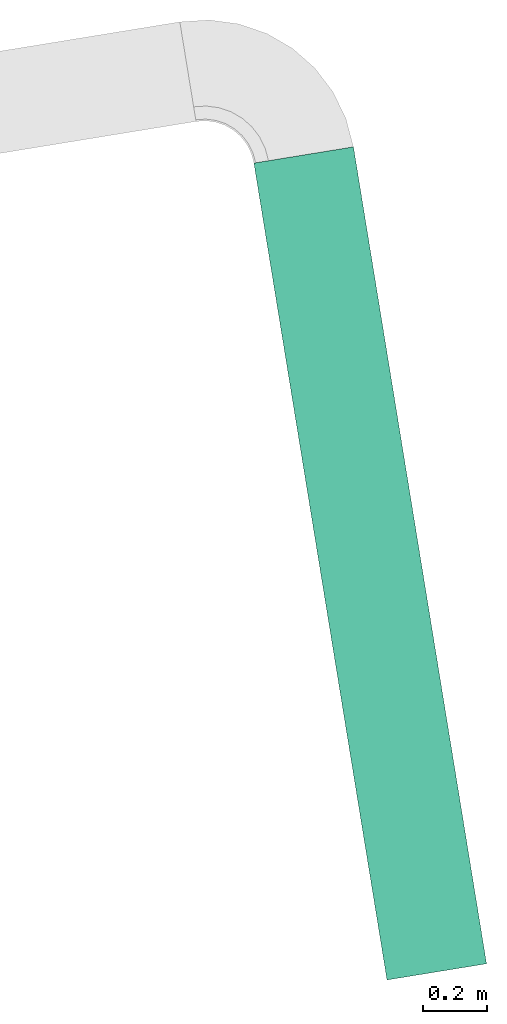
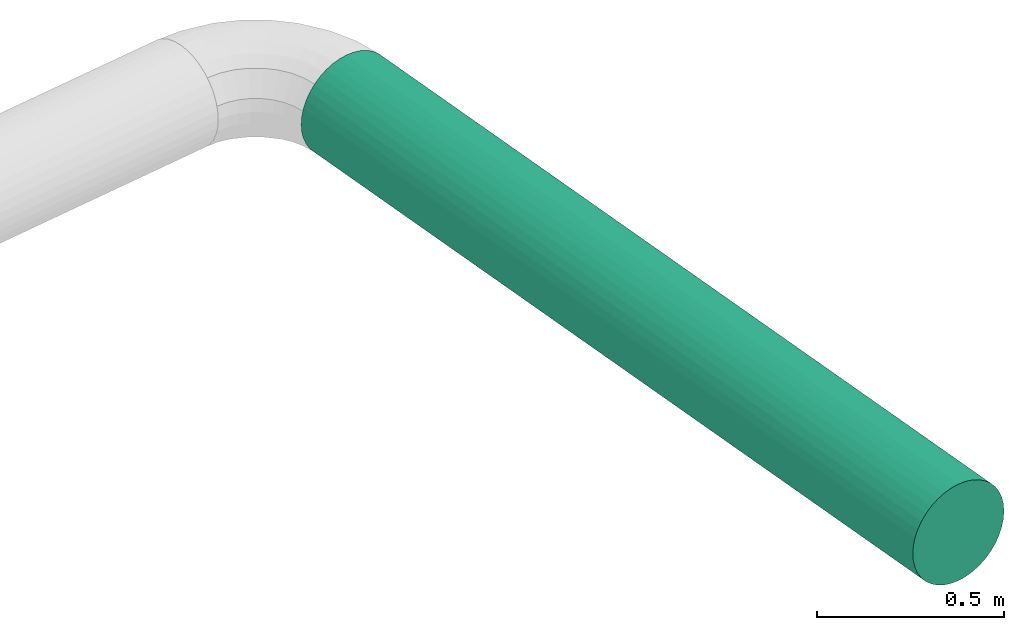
# One storey, part 1 of 2: 1 flow segment.
"""IFC2X3 building model written with IfcOpenShell, lengths in millimetres."""

import ifcopenshell
import ifcopenshell.guid

model = None  # the IFC model being written
_history = None  # IfcOwnerHistory: only IFC2X3 demands one
_inside = {}  # id of a spatial element -> (the spatial element, [elements in it])
_under = {}  # id of a project, library or spatial element -> (it, [spatial elements below it])
_declared = {}  # id of a project -> (the project, [libraries it declares])
_typed = {}  # id of a type object -> (the type object, [elements of that type])
_made_of = {}  # id of a material, layer set ... -> (it, [elements and type objects made of it])


def new_model(schema):
    """Start an empty IFC model of exactly this schema.

    Asked for "IFC4X3", IfcOpenShell would pick the latest addendum, in which some entities
    have other attributes; the version numbers below select the first issue.
    IFC2X3 requires an IfcOwnerHistory on every rooted entity: one is made here for all.
    """
    global model, _history
    if schema == "IFC4X3":
        model = ifcopenshell.file(schema_version=(4, 3, 0, 0))
    else:
        model = ifcopenshell.file(schema=schema)
    _inside.clear()
    _under.clear()
    _declared.clear()
    _typed.clear()
    _made_of.clear()
    _history = None
    if model.schema == "IFC2X3":
        org = make("IfcOrganization", Name="unknown")
        user = make(
            "IfcPersonAndOrganization",
            ThePerson=make("IfcPerson", FamilyName="unknown"),
            TheOrganization=org,
        )
        app = make(
            "IfcApplication",
            ApplicationDeveloper=org,
            Version="unknown",
            ApplicationFullName="unknown",
            ApplicationIdentifier="unknown",
        )
        _history = make(
            "IfcOwnerHistory",
            OwningUser=user,
            OwningApplication=app,
            ChangeAction="ADDED",
            CreationDate=0,
        )
    return model


def make(cls, **values):
    """One entity of the class cls with the attributes given. An attribute that is None is left unset."""
    return model.create_entity(
        cls, **{name: value for name, value in values.items() if value is not None}
    )


def entity(cls, *values):
    """Any entity or typed value of the class cls, its attributes in the order of the schema. None: left unset."""
    e = model.create_entity(cls)
    for i, value in enumerate(values):
        if value is not None:
            e[i] = value
    return e


def rooted(cls, **values):
    """An entity with a GlobalId (a new one), such as an element, a storey or a relation."""
    return make(cls, GlobalId=ifcopenshell.guid.new(), OwnerHistory=_history, **values)


def si_unit(unit_type, name, prefix=None):
    """IfcSIUnit, for example si_unit("LENGTHUNIT", "METRE", prefix="MILLI")."""
    return make("IfcSIUnit", UnitType=unit_type, Prefix=prefix, Name=name)


def converted_unit(unit_type, name, factor, base, dimensions=None, offset=None):
    """IfcConversionBasedUnit, such as the inch: factor (a typed value) times the base unit."""
    return make(
        "IfcConversionBasedUnit"
        if offset is None
        else "IfcConversionBasedUnitWithOffset",
        ConversionOffset=offset,
        Dimensions=None
        if dimensions is None
        else entity("IfcDimensionalExponents", *dimensions),
        UnitType=unit_type,
        Name=name,
        ConversionFactor=make(
            "IfcMeasureWithUnit", ValueComponent=factor, UnitComponent=base
        ),
    )


def derived_unit(unit_type, elements):
    """IfcDerivedUnit: a product of units, each with its exponent."""
    return make(
        "IfcDerivedUnit",
        Elements=[
            make("IfcDerivedUnitElement", Unit=unit, Exponent=power)
            for unit, power in elements
        ],
        UnitType=unit_type,
    )


def assignment(units):
    """IfcUnitAssignment: the units of a project."""
    return None if units is None else make("IfcUnitAssignment", Units=units)


def point(xyz):
    """IfcCartesianPoint."""
    return None if xyz is None else make("IfcCartesianPoint", Coordinates=xyz)


def direction(xyz):
    """IfcDirection."""
    return None if xyz is None else make("IfcDirection", DirectionRatios=xyz)


def frame(location, z_axis=None, x_axis=None):
    """IfcAxis2Placement3D, a coordinate frame: its origin and axes. An axis left out is left unset."""
    return make(
        "IfcAxis2Placement3D",
        Location=point(location),
        Axis=direction(z_axis),
        RefDirection=direction(x_axis),
    )


def frame_2d(location, x_axis=None):
    """IfcAxis2Placement2D, a coordinate frame in the plane: its origin and x axis."""
    return make(
        "IfcAxis2Placement2D", Location=point(location), RefDirection=direction(x_axis)
    )


def origin():
    """The frame at (0, 0, 0) with its axes left unset."""
    return frame((0.0, 0.0, 0.0))


def origin_with_axes():
    """The frame at (0, 0, 0) with the z axis (0, 0, 1) and the x axis (1, 0, 0) written out."""
    return frame((0.0, 0.0, 0.0), z_axis=(0.0, 0.0, 1.0), x_axis=(1.0, 0.0, 0.0))


def origin_2d_with_axis():
    """The frame at (0, 0) in the plane with the x axis (1, 0) written out."""
    return frame_2d((0.0, 0.0), x_axis=(1.0, 0.0))


def place(relative_to, where):
    """IfcLocalPlacement: puts the frame where relative to a parent placement (None: the world)."""
    return make(
        "IfcLocalPlacement", PlacementRelTo=relative_to, RelativePlacement=where
    )


def context(
    kind, dimensions, precision=None, world=None, true_north=None, identifier=None
):
    """IfcGeometricRepresentationContext, for example the 3D "Model" context."""
    return make(
        "IfcGeometricRepresentationContext",
        ContextIdentifier=identifier,
        ContextType=kind,
        CoordinateSpaceDimension=dimensions,
        Precision=precision,
        WorldCoordinateSystem=world,
        TrueNorth=true_north,
    )


def subcontext(parent, identifier, kind, view, scale=None):
    """IfcGeometricRepresentationSubContext, for example "Body" below "Model"."""
    return make(
        "IfcGeometricRepresentationSubContext",
        ContextIdentifier=identifier,
        ContextType=kind,
        ParentContext=parent,
        TargetScale=scale,
        TargetView=view,
    )


def project(units=None, contexts=None):
    """IfcProject with its units and contexts."""
    return rooted(
        "IfcProject",
        Name="project",
        RepresentationContexts=contexts,
        UnitsInContext=assignment(units),
    )


def spatial(cls, under=None, at=None, **own):
    """A site, building, storey or space (cls), placed at a placement, below another one or the project."""
    s = rooted(cls, ObjectPlacement=at, **own)
    if under is not None:
        _under.setdefault(under.id(), (under, []))[1].append(s)
    return s


def profile(cls, at=None, kind="AREA", **sizes):
    """A parametric profile (cls). Its sizes go by their IFC names, for example OverallWidth=200.0."""
    return make(cls, ProfileType=kind, Position=at, **sizes)


def circle(**sizes):
    """IfcCircleProfileDef."""
    return profile("IfcCircleProfileDef", **sizes)


def extrude(swept, where, along, depth):
    """IfcExtrudedAreaSolid: the profile swept, set in the frame where, extruded along a direction by depth."""
    return make(
        "IfcExtrudedAreaSolid",
        SweptArea=swept,
        Position=where,
        ExtrudedDirection=direction(along),
        Depth=depth,
    )


def shape(context_of_items, identifier, shape_type, items):
    """IfcShapeRepresentation: the items that make up one representation, for example the "Body"."""
    return make(
        "IfcShapeRepresentation",
        ContextOfItems=context_of_items,
        RepresentationIdentifier=identifier,
        RepresentationType=shape_type,
        Items=items,
    )


def material(Name=None, Category=None):
    """IfcMaterial."""
    return make("IfcMaterial", Name=Name, Category=Category)


def made_of(thing, what):
    """Note that an element or type object is made of a material, layer set ...; save() writes the relation."""
    if what is not None:
        _made_of.setdefault(what.id(), (what, []))[1].append(thing)
    return thing


def type_object(cls, material=None, **own):
    """A type object (cls), such as IfcWallType, which elements share."""
    return made_of(rooted(cls, **own), material)


def element(
    cls,
    number,
    at=None,
    inside=None,
    cuts=None,
    type_object=None,
    material=None,
    context=None,
    identifier="Body",
    shape_type=None,
    held_by="IfcProductDefinitionShape",
    body=None,
    shapes=None,
    **own,
):
    """One element of the class cls, such as IfcWall. Its Tag is "e" and its number.

    at: its placement. inside: the storey or other place that contains it. cuts: it is an
    opening in that element (IfcRelVoidsElement). A single representation is given by context,
    identifier, shape_type and body (its items); several are given by shapes. held_by: the class
    of the entity that holds the representations. save() writes the other relations.
    """
    e = rooted(cls, Tag="e%d" % number, ObjectPlacement=at, **own)
    if body is not None:
        shapes = [shape(context, identifier, shape_type, body)]
    if shapes is not None:
        e.Representation = make(held_by, Representations=shapes)
    if inside is not None:
        _inside.setdefault(inside.id(), (inside, []))[1].append(e)
    if cuts is not None:
        rooted(
            "IfcRelVoidsElement", RelatingBuildingElement=cuts, RelatedOpeningElement=e
        )
    if type_object is not None:
        _typed.setdefault(type_object.id(), (type_object, []))[1].append(e)
    return made_of(e, material)


def aggregate(whole, parts):
    """IfcRelAggregates: a whole, such as a stair, and the parts it consists of."""
    return rooted("IfcRelAggregates", RelatingObject=whole, RelatedObjects=parts)


def save(model, path):
    """Write the relations noted so far, then the file.

    IfcRelAggregates (storeys below a building ...), IfcRelContainedInSpatialStructure (elements
    in a storey), IfcRelDefinesByType, IfcRelAssociatesMaterial and IfcRelDeclares: one each for
    every whole, place, type object, material and project.
    """
    for whole, parts in _under.values():
        aggregate(whole, parts)
    for where, things in _inside.values():
        rooted(
            "IfcRelContainedInSpatialStructure",
            RelatedElements=things,
            RelatingStructure=where,
        )
    for kind, things in _typed.values():
        rooted("IfcRelDefinesByType", RelatedObjects=things, RelatingType=kind)
    for what, things in _made_of.values():
        rooted("IfcRelAssociatesMaterial", RelatedObjects=things, RelatingMaterial=what)
    for by, libraries in _declared.values():
        rooted("IfcRelDeclares", RelatingContext=by, RelatedDefinitions=libraries)
    model.write(path)


model = new_model("IFC2X3")

# Units and contexts
plan_context = context("Plan", 3, precision=1e-05, world=origin_with_axes())
model_context = context("Model", 3, precision=0.01, world=origin(), true_north=direction((6.12323399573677e-17, 1.0)))
body_context = subcontext(model_context, "Body", "Model", "MODEL_VIEW")
ifc_project = project(units=[converted_unit("PLANEANGLEUNIT", "DEGREE", entity("IfcPositiveLengthMeasure", 0.0174532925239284), si_unit("PLANEANGLEUNIT", "RADIAN"), dimensions=[0, 0, 0, 0, 0, 0, 0]), si_unit("AREAUNIT", "SQUARE_METRE"), si_unit("LENGTHUNIT", "METRE", prefix="MILLI"), si_unit("MASSUNIT", "GRAM", prefix="KILO"), si_unit("POWERUNIT", "WATT"), si_unit("PRESSUREUNIT", "PASCAL", prefix="KILO"), si_unit("FORCEUNIT", "NEWTON", prefix="KILO"), si_unit("ELECTRICVOLTAGEUNIT", "VOLT"), si_unit("ELECTRICCURRENTUNIT", "AMPERE"), si_unit("THERMODYNAMICTEMPERATUREUNIT", "DEGREE_CELSIUS"), si_unit("TIMEUNIT", "SECOND"), si_unit("VOLUMEUNIT", "CUBIC_METRE"), derived_unit("LINEARVELOCITYUNIT", [(si_unit("LENGTHUNIT", "METRE"), 1), (si_unit("TIMEUNIT", "SECOND"), -1)]), derived_unit("VOLUMETRICFLOWRATEUNIT", [(si_unit("VOLUMEUNIT", "CUBIC_METRE"), 1), (si_unit("TIMEUNIT", "SECOND"), -1)]), derived_unit("THERMALTRANSMITTANCEUNIT", [(si_unit("POWERUNIT", "WATT"), 1), (si_unit("THERMODYNAMICTEMPERATUREUNIT", "KELVIN"), -1), (si_unit("AREAUNIT", "SQUARE_METRE"), -1)]), derived_unit("SOUNDPRESSUREUNIT", [(si_unit("PRESSUREUNIT", "PASCAL"), 1)])], contexts=[model_context, plan_context])

# Site, building, storey
site_placement = place(None, frame((5.09380697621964e-08, 5.80416781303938e-08, 0.0), z_axis=(0.0, 0.0, 1.0), x_axis=(-0.160806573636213, 0.986985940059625, 0.0)))
site = spatial("IfcSite", under=ifc_project, at=site_placement, Name="Default", CompositionType="ELEMENT")
building_placement = place(site_placement, frame((0.0, 0.0, 0.0), z_axis=(0.0, 0.0, 1.0), x_axis=(1.0, -2.77555756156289e-17, 0.0)))
building = spatial("IfcBuilding", under=site, at=building_placement, Name="Bygning (endres i Project Information)", CompositionType="ELEMENT")
storey_placement = place(building_placement, frame((0.0, 0.0, 51360.0000000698), z_axis=(0.0, 0.0, 1.0), x_axis=(1.0, -2.77555756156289e-17, 0.0)))
storey = spatial("IfcBuildingStorey", under=building, at=storey_placement, Name="H01-Nivå D+0,36", CompositionType="ELEMENT", Elevation=51360.0000000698)

# Flow segment
ifc_material = material(Name="3601.001 Tilluft")
duct_segment_type = type_object("IfcDuctSegmentType", Name="Round Duct:Sirkulær kanal", PredefinedType="NOTDEFINED", material=ifc_material)
flow_segment_placement = place(storey_placement, frame((0.0, 0.0, 0.0), z_axis=(0.0, 0.0, 1.0), x_axis=(1.0, -2.77555756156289e-17, 0.0)))
element("IfcFlowSegment", 1, at=flow_segment_placement, inside=storey, type_object=duct_segment_type, Name="Round Duct:Sirkulær kanal", ObjectType="Round Duct:Sirkulær kanal", context=body_context, shape_type="SweptSolid", body=[
    extrude(circle(Radius=157.5000002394, at=origin_2d_with_axis()), frame((974898.3442924, -369067.388150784, 3100.0), z_axis=(1.0, 0.0, 0.0), x_axis=(0.0, 1.0, 0.0)), (0.0, 0.0, 1.0), 2584.9999995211),
])

save(model, "model.ifc")
